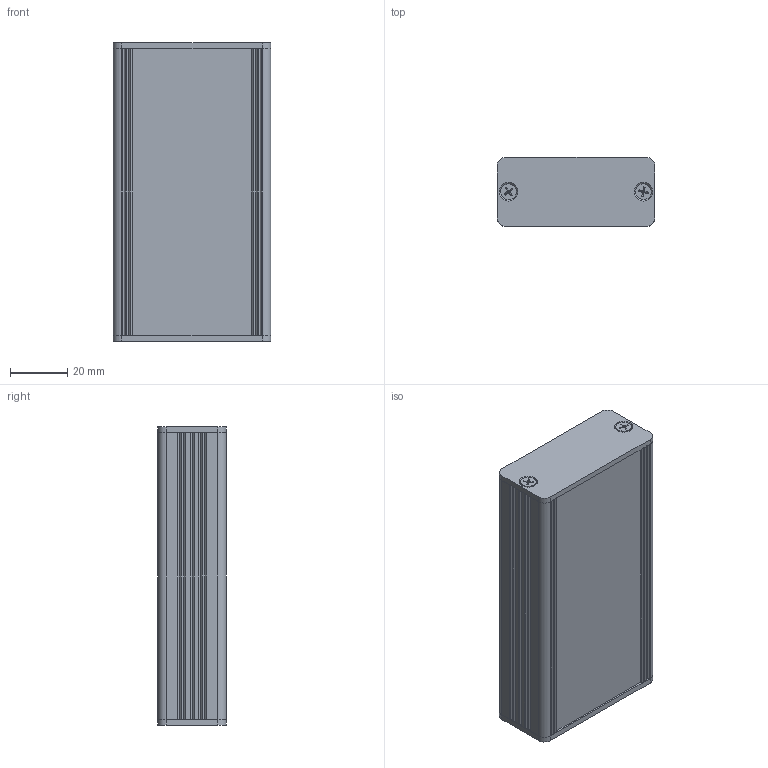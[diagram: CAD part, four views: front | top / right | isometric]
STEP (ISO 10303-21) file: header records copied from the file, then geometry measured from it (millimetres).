
FILE_DESCRIPTION((''),'2;1');
FILE_NAME('C:\Dokumente und Einstellungen\Lochen\Desktop\AKG\AKG_55_24_100.stp','2015-01-15T13:40:57',('Lochen'),(''),'Autodesk Inventor 2012','Autodesk Inventor 2012','');
FILE_SCHEMA(('AUTOMOTIVE_DESIGN { 1 0 10303 214 1 1 1 1 }'));
Length unit declared in the file: millimetre
Products named in the file (4): 001038022; 001033857; L0015SGD000024A; DIN EN ISO 7046-1 H M3 x 10 - 4.8 - H
Assembly tree (8 placements, depth 2):
  001038022
    001033857  x2
    L0015SGD000024A  x2
    DIN EN ISO 7046-1 H M3 x 10 - 4.8 - H  x4
Bounding box: 55.01 x 24 x 104 mm (x, y, z)
Volume: 33054.9 mm3; surface area: 42638.3 mm2
Topology: 8 solids, 8 shells, 354 faces, 986 edges, 648 vertices
Faces by surface type: plane 158, cylinder 124, cone 52, torus 20
Full cylindrical faces by diameter (mm): 2.693 x4, 3 x4, 3.4 x4, 5.5 x4
Entity records: 4955 total; most frequent: CARTESIAN_POINT 956, DIRECTION 837, ORIENTED_EDGE 802, EDGE_CURVE 401, AXIS2_PLACEMENT_3D 297, VERTEX_POINT 272, VECTOR 243, LINE 243
